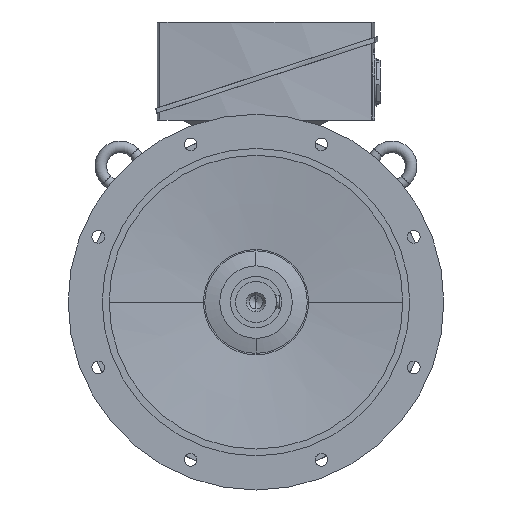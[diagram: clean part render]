
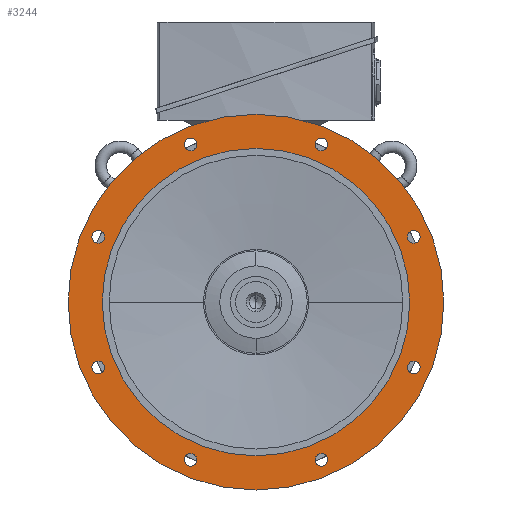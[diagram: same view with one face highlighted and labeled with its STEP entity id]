
A CAD part, left-side view. The second image highlights one B-rep face of the part: STEP entity #3244.
In plain terms, the highlighted planar face has unit normal (-1, 0, 0).
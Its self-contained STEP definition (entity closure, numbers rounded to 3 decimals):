
#3244=ADVANCED_FACE('',(#6540,#6541,#6542,#6543,#6544,#6545,#6546,#6547,#6548,#6549),#6550,.T.);
#6540=FACE_BOUND('',#9847,.T.);
#6541=FACE_BOUND('',#9848,.T.);
#6542=FACE_BOUND('',#9849,.T.);
#6543=FACE_BOUND('',#9850,.T.);
#6544=FACE_BOUND('',#9851,.T.);
#6545=FACE_BOUND('',#9852,.T.);
#6546=FACE_BOUND('',#9853,.T.);
#6547=FACE_BOUND('',#9854,.T.);
#6548=FACE_OUTER_BOUND('',#9855,.T.);
#6549=FACE_BOUND('',#9856,.T.);
#6550=PLANE('',#9857);
#9847=EDGE_LOOP('',(#20143,#20144));
#9848=EDGE_LOOP('',(#20145,#20146));
#9849=EDGE_LOOP('',(#20147,#20148));
#9850=EDGE_LOOP('',(#20149,#20150));
#9851=EDGE_LOOP('',(#20151,#20152));
#9852=EDGE_LOOP('',(#20153,#20154));
#9853=EDGE_LOOP('',(#20155,#20156));
#9854=EDGE_LOOP('',(#20157,#20158));
#9855=EDGE_LOOP('',(#20159,#20160));
#9856=EDGE_LOOP('',(#20161,#20162));
#9857=AXIS2_PLACEMENT_3D('',#20163,#20164,#20165);
#20143=ORIENTED_EDGE('',*,*,#24194,.T.);
#20144=ORIENTED_EDGE('',*,*,#20297,.T.);
#20145=ORIENTED_EDGE('',*,*,#24197,.T.);
#20146=ORIENTED_EDGE('',*,*,#20292,.T.);
#20147=ORIENTED_EDGE('',*,*,#24200,.T.);
#20148=ORIENTED_EDGE('',*,*,#20287,.T.);
#20149=ORIENTED_EDGE('',*,*,#24203,.T.);
#20150=ORIENTED_EDGE('',*,*,#20282,.T.);
#20151=ORIENTED_EDGE('',*,*,#24206,.T.);
#20152=ORIENTED_EDGE('',*,*,#20277,.T.);
#20153=ORIENTED_EDGE('',*,*,#24209,.T.);
#20154=ORIENTED_EDGE('',*,*,#20272,.T.);
#20155=ORIENTED_EDGE('',*,*,#24212,.T.);
#20156=ORIENTED_EDGE('',*,*,#20267,.T.);
#20157=ORIENTED_EDGE('',*,*,#24215,.T.);
#20158=ORIENTED_EDGE('',*,*,#20262,.T.);
#20159=ORIENTED_EDGE('',*,*,#20226,.F.);
#20160=ORIENTED_EDGE('',*,*,#24283,.F.);
#20161=ORIENTED_EDGE('',*,*,#20233,.T.);
#20162=ORIENTED_EDGE('',*,*,#24281,.T.);
#20163=CARTESIAN_POINT('',(-100.0,250.0,0.0));
#20164=DIRECTION('',(-1.0,0.0,0.0));
#20165=DIRECTION('',(0.0,-1.0,0.0));
#20226=EDGE_CURVE('',#24329,#24332,#24333,.T.);
#20233=EDGE_CURVE('',#24339,#24343,#24345,.T.);
#20262=EDGE_CURVE('',#24394,#24391,#24395,.T.);
#20267=EDGE_CURVE('',#24403,#24400,#24404,.T.);
#20272=EDGE_CURVE('',#24412,#24409,#24413,.T.);
#20277=EDGE_CURVE('',#24421,#24418,#24422,.T.);
#20282=EDGE_CURVE('',#24430,#24427,#24431,.T.);
#20287=EDGE_CURVE('',#24439,#24436,#24440,.T.);
#20292=EDGE_CURVE('',#24448,#24445,#24449,.T.);
#20297=EDGE_CURVE('',#24457,#24454,#24458,.T.);
#24194=EDGE_CURVE('',#24454,#24457,#30269,.T.);
#24197=EDGE_CURVE('',#24445,#24448,#30272,.T.);
#24200=EDGE_CURVE('',#24436,#24439,#30275,.T.);
#24203=EDGE_CURVE('',#24427,#24430,#30278,.T.);
#24206=EDGE_CURVE('',#24418,#24421,#30281,.T.);
#24209=EDGE_CURVE('',#24409,#24412,#30284,.T.);
#24212=EDGE_CURVE('',#24400,#24403,#30287,.T.);
#24215=EDGE_CURVE('',#24391,#24394,#30290,.T.);
#24281=EDGE_CURVE('',#24343,#24339,#30362,.T.);
#24283=EDGE_CURVE('',#24332,#24329,#30364,.T.);
#24329=VERTEX_POINT('',#30576);
#24332=VERTEX_POINT('',#30580);
#24333=CIRCLE('',#30581,275.0);
#24339=VERTEX_POINT('',#30588);
#24343=VERTEX_POINT('',#30593);
#24345=CIRCLE('',#30596,225.0);
#24391=VERTEX_POINT('',#30650);
#24394=VERTEX_POINT('',#30654);
#24395=CIRCLE('',#30655,9.25);
#24400=VERTEX_POINT('',#30661);
#24403=VERTEX_POINT('',#30665);
#24404=CIRCLE('',#30666,9.25);
#24409=VERTEX_POINT('',#30672);
#24412=VERTEX_POINT('',#30676);
#24413=CIRCLE('',#30677,9.25);
#24418=VERTEX_POINT('',#30683);
#24421=VERTEX_POINT('',#30687);
#24422=CIRCLE('',#30688,9.25);
#24427=VERTEX_POINT('',#30694);
#24430=VERTEX_POINT('',#30698);
#24431=CIRCLE('',#30699,9.25);
#24436=VERTEX_POINT('',#30705);
#24439=VERTEX_POINT('',#30709);
#24440=CIRCLE('',#30710,9.25);
#24445=VERTEX_POINT('',#30716);
#24448=VERTEX_POINT('',#30720);
#24449=CIRCLE('',#30721,9.25);
#24454=VERTEX_POINT('',#30727);
#24457=VERTEX_POINT('',#30731);
#24458=CIRCLE('',#30732,9.25);
#30269=CIRCLE('',#51729,9.25);
#30272=CIRCLE('',#51732,9.25);
#30275=CIRCLE('',#51735,9.25);
#30278=CIRCLE('',#51738,9.25);
#30281=CIRCLE('',#51741,9.25);
#30284=CIRCLE('',#51744,9.25);
#30287=CIRCLE('',#51747,9.25);
#30290=CIRCLE('',#51750,9.25);
#30362=CIRCLE('',#51847,225.0);
#30364=CIRCLE('',#51849,275.0);
#30576=CARTESIAN_POINT('',(-100.0,275.0,0.0));
#30580=CARTESIAN_POINT('',(-100.0,-275.0,0.));
#30581=AXIS2_PLACEMENT_3D('',#51897,#51898,#51899);
#30588=CARTESIAN_POINT('',(-100.0,225.0,0.0));
#30593=CARTESIAN_POINT('',(-100.0,-225.0,0.));
#30596=AXIS2_PLACEMENT_3D('',#51909,#51910,#51911);
#30650=CARTESIAN_POINT('',(-100.0,-99.211,239.516));
#30654=CARTESIAN_POINT('',(-100.0,-92.131,222.424));
#30655=AXIS2_PLACEMENT_3D('',#51960,#51961,#51962);
#30661=CARTESIAN_POINT('',(-100.0,99.211,239.516));
#30665=CARTESIAN_POINT('',(-100.0,92.131,222.424));
#30666=AXIS2_PLACEMENT_3D('',#51968,#51969,#51970);
#30672=CARTESIAN_POINT('',(-100.0,239.516,99.211));
#30676=CARTESIAN_POINT('',(-100.0,222.424,92.131));
#30677=AXIS2_PLACEMENT_3D('',#51976,#51977,#51978);
#30683=CARTESIAN_POINT('',(-100.0,239.516,-99.211));
#30687=CARTESIAN_POINT('',(-100.0,222.424,-92.131));
#30688=AXIS2_PLACEMENT_3D('',#51984,#51985,#51986);
#30694=CARTESIAN_POINT('',(-100.0,99.211,-239.516));
#30698=CARTESIAN_POINT('',(-100.0,92.131,-222.424));
#30699=AXIS2_PLACEMENT_3D('',#51992,#51993,#51994);
#30705=CARTESIAN_POINT('',(-100.0,-99.211,-239.516));
#30709=CARTESIAN_POINT('',(-100.0,-92.131,-222.424));
#30710=AXIS2_PLACEMENT_3D('',#52000,#52001,#52002);
#30716=CARTESIAN_POINT('',(-100.0,-239.516,-99.211));
#30720=CARTESIAN_POINT('',(-100.0,-222.424,-92.131));
#30721=AXIS2_PLACEMENT_3D('',#52008,#52009,#52010);
#30727=CARTESIAN_POINT('',(-100.0,-239.516,99.211));
#30731=CARTESIAN_POINT('',(-100.0,-222.424,92.131));
#30732=AXIS2_PLACEMENT_3D('',#52016,#52017,#52018);
#51729=AXIS2_PLACEMENT_3D('',#55419,#55420,#55421);
#51732=AXIS2_PLACEMENT_3D('',#55425,#55426,#55427);
#51735=AXIS2_PLACEMENT_3D('',#55431,#55432,#55433);
#51738=AXIS2_PLACEMENT_3D('',#55437,#55438,#55439);
#51741=AXIS2_PLACEMENT_3D('',#55443,#55444,#55445);
#51744=AXIS2_PLACEMENT_3D('',#55449,#55450,#55451);
#51747=AXIS2_PLACEMENT_3D('',#55455,#55456,#55457);
#51750=AXIS2_PLACEMENT_3D('',#55461,#55462,#55463);
#51847=AXIS2_PLACEMENT_3D('',#55513,#55514,#55515);
#51849=AXIS2_PLACEMENT_3D('',#55516,#55517,#55518);
#51897=CARTESIAN_POINT('',(-100.0,0.0,0.0));
#51898=DIRECTION('',(1.0,0.0,0.0));
#51899=DIRECTION('',(0.0,1.0,0.0));
#51909=CARTESIAN_POINT('',(-100.0,0.0,0.0));
#51910=DIRECTION('',(1.0,0.0,0.0));
#51911=DIRECTION('',(0.0,1.0,0.0));
#51960=CARTESIAN_POINT('',(-100.0,-95.671,230.97));
#51961=DIRECTION('',(1.0,0.0,-0.0));
#51962=DIRECTION('',(0.0,-0.383,0.924));
#51968=CARTESIAN_POINT('',(-100.0,95.671,230.97));
#51969=DIRECTION('',(1.0,0.0,-0.0));
#51970=DIRECTION('',(0.0,0.383,0.924));
#51976=CARTESIAN_POINT('',(-100.0,230.97,95.671));
#51977=DIRECTION('',(1.0,0.0,-0.0));
#51978=DIRECTION('',(0.0,0.924,0.383));
#51984=CARTESIAN_POINT('',(-100.0,230.97,-95.671));
#51985=DIRECTION('',(1.0,-0.0,0.0));
#51986=DIRECTION('',(0.0,0.924,-0.383));
#51992=CARTESIAN_POINT('',(-100.0,95.671,-230.97));
#51993=DIRECTION('',(1.0,-0.0,0.0));
#51994=DIRECTION('',(0.0,0.383,-0.924));
#52000=CARTESIAN_POINT('',(-100.0,-95.671,-230.97));
#52001=DIRECTION('',(1.0,0.0,0.0));
#52002=DIRECTION('',(0.0,-0.383,-0.924));
#52008=CARTESIAN_POINT('',(-100.0,-230.97,-95.671));
#52009=DIRECTION('',(1.0,0.0,0.0));
#52010=DIRECTION('',(0.0,-0.924,-0.383));
#52016=CARTESIAN_POINT('',(-100.0,-230.97,95.671));
#52017=DIRECTION('',(1.0,0.0,-0.0));
#52018=DIRECTION('',(0.0,-0.924,0.383));
#55419=CARTESIAN_POINT('',(-100.0,-230.97,95.671));
#55420=DIRECTION('',(1.0,0.0,-0.0));
#55421=DIRECTION('',(0.0,-0.924,0.383));
#55425=CARTESIAN_POINT('',(-100.0,-230.97,-95.671));
#55426=DIRECTION('',(1.0,0.0,0.0));
#55427=DIRECTION('',(0.0,-0.924,-0.383));
#55431=CARTESIAN_POINT('',(-100.0,-95.671,-230.97));
#55432=DIRECTION('',(1.0,0.0,0.0));
#55433=DIRECTION('',(0.0,-0.383,-0.924));
#55437=CARTESIAN_POINT('',(-100.0,95.671,-230.97));
#55438=DIRECTION('',(1.0,-0.0,0.0));
#55439=DIRECTION('',(0.0,0.383,-0.924));
#55443=CARTESIAN_POINT('',(-100.0,230.97,-95.671));
#55444=DIRECTION('',(1.0,-0.0,0.0));
#55445=DIRECTION('',(0.0,0.924,-0.383));
#55449=CARTESIAN_POINT('',(-100.0,230.97,95.671));
#55450=DIRECTION('',(1.0,0.0,-0.0));
#55451=DIRECTION('',(0.0,0.924,0.383));
#55455=CARTESIAN_POINT('',(-100.0,95.671,230.97));
#55456=DIRECTION('',(1.0,0.0,-0.0));
#55457=DIRECTION('',(0.0,0.383,0.924));
#55461=CARTESIAN_POINT('',(-100.0,-95.671,230.97));
#55462=DIRECTION('',(1.0,0.0,-0.0));
#55463=DIRECTION('',(0.0,-0.383,0.924));
#55513=CARTESIAN_POINT('',(-100.0,0.0,0.0));
#55514=DIRECTION('',(1.0,0.0,0.0));
#55515=DIRECTION('',(0.0,1.0,0.0));
#55516=CARTESIAN_POINT('',(-100.0,0.0,0.0));
#55517=DIRECTION('',(1.0,0.0,0.0));
#55518=DIRECTION('',(0.0,1.0,0.0));
